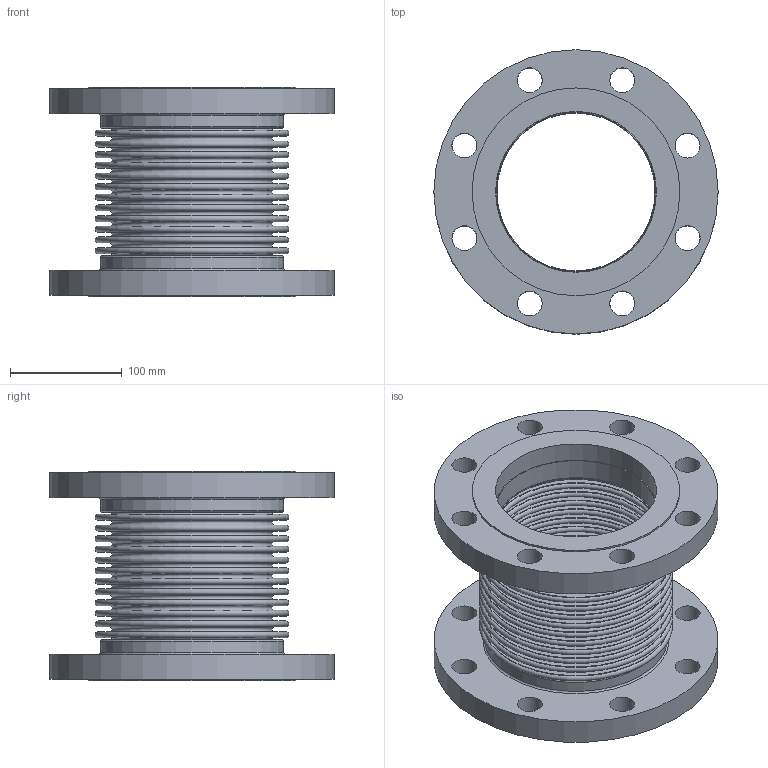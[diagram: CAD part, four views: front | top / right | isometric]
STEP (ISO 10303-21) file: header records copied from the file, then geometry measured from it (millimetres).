
FILE_DESCRIPTION(/* description */ ('EXPANSION JOINT,SINGLE, FLANGED ENDS,5 INCH NOMINAL','CAx-IF Rec.Pracs.---Representation and Presentation of Product Manufacturing Information (PMI)---4.0---2014-10-13'),/* implementation_level */ '2;1');
FILE_NAME(/* name */ 'US-05-12-85L-FLANGED ENDS.stp',/* time_stamp */ '2026-07-31T17:05:06-05:00',/* author */ ('Guadalupe'),/* organization */ (''),/* preprocessor_version */ 'ST-DEVELOPER v20.1',/* originating_system */ 'Autodesk Inventor 2026',/* authorisation */ '');
FILE_SCHEMA (('AP242_MANAGED_MODEL_BASED_3D_ENGINEERING_MIM_LF { 1 0 10303 442 2 1 4 }'));
Length unit declared in the file: inch
Products named in the file (3): 05-85L; 05-85L-02; 05-85L-01
Assembly tree (3 placements, depth 2):
  05-85L
    05-85L-02  x2
    05-85L-01
Bounding box: 254 x 254 x 187.45 mm (x, y, z)
Volume: 1695576.9 mm3; surface area: 694350.9 mm2
Topology: 5 solids, 5 shells, 144 faces, 246 edges, 164 vertices
Faces by surface type: plane 62, torus 54, cylinder 28
Full cylindrical faces by diameter (mm): 22.225 x16, 141.3 x2, 142.519 x2, 143.764 x2, 163.576 x2, 185.674 x2, 254 x2
Entity records: 3294 total; most frequent: DIRECTION 682, CARTESIAN_POINT 489, ORIENTED_EDGE 408, AXIS2_PLACEMENT_3D 333, EDGE_CURVE 204, EDGE_LOOP 200, CIRCLE 188, VERTEX_POINT 136
